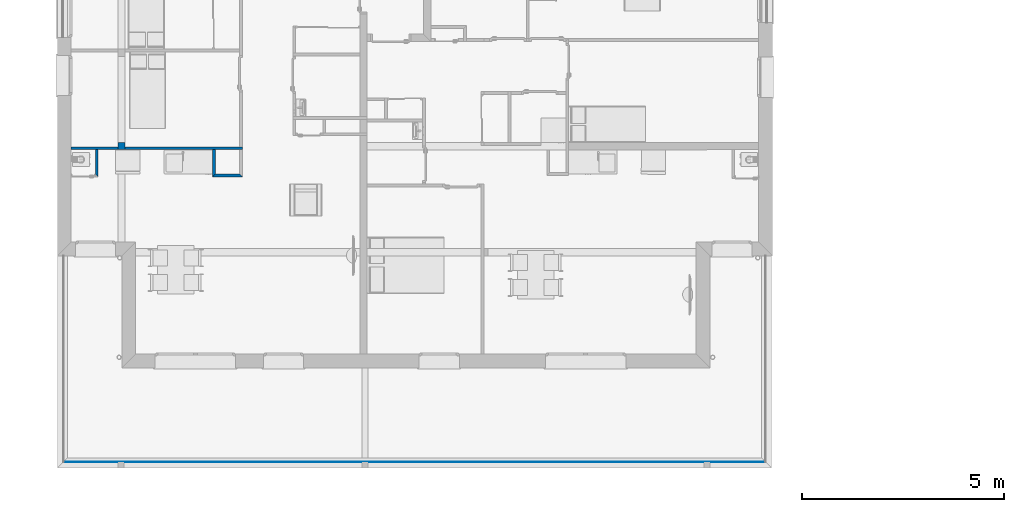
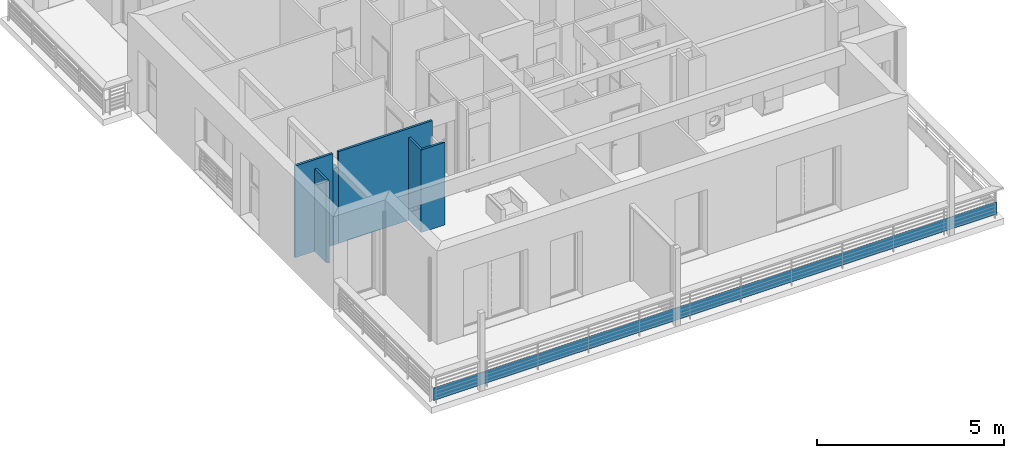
# One storey, part 4 of 165: 7 walls.
"""IFC2X3 building model written with IfcOpenShell, lengths in millimetres."""

from ifc_helpers import new_model, entity, si_unit, converted_unit, derived_unit, money_unit, direction, frame, origin_with_axes, place, context, subcontext, project, spatial, polyline, outline, extrude, material, layer, layer_set, layer_usage, type_object, element, save


model = new_model("IFC2X3")

# Units and contexts
model_context = context("Model", 3, precision=0.01, world=origin_with_axes(), true_north=direction((0.0, 1.0)))
body_context = subcontext(model_context, "Body", "Model", "MODEL_VIEW")
ifc_project = project(units=[si_unit("LENGTHUNIT", "METRE", prefix="MILLI"), si_unit("AREAUNIT", "SQUARE_METRE"), si_unit("VOLUMEUNIT", "CUBIC_METRE"), converted_unit("PLANEANGLEUNIT", "DEGREE", entity("IfcPlaneAngleMeasure", 0.0174532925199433), si_unit("PLANEANGLEUNIT", "RADIAN"), dimensions=[0, 0, 0, 0, 0, 0, 0]), money_unit("USD"), converted_unit("TIMEUNIT", "Year", entity("IfcTimeMeasure", 31557600.0), si_unit("TIMEUNIT", "SECOND"), dimensions=[0, 0, 1, 0, 0, 0, 0]), si_unit("MASSUNIT", "GRAM", prefix="KILO"), si_unit("THERMODYNAMICTEMPERATUREUNIT", "DEGREE_CELSIUS"), si_unit("LUMINOUSINTENSITYUNIT", "LUMEN"), si_unit("ENERGYUNIT", "JOULE", prefix="MEGA"), derived_unit("THERMALCONDUCTANCEUNIT", [(si_unit("POWERUNIT", "WATT"), 1), (si_unit("LENGTHUNIT", "METRE"), -1), (si_unit("THERMODYNAMICTEMPERATUREUNIT", "KELVIN"), -1)]), derived_unit("SPECIFICHEATCAPACITYUNIT", [(si_unit("ENERGYUNIT", "JOULE"), 1), (si_unit("MASSUNIT", "GRAM", prefix="KILO"), -1), (si_unit("THERMODYNAMICTEMPERATUREUNIT", "KELVIN"), -1)]), derived_unit("MASSDENSITYUNIT", [(si_unit("MASSUNIT", "GRAM", prefix="KILO"), 1), (si_unit("VOLUMEUNIT", "CUBIC_METRE"), -1)])], contexts=[model_context])

# Site, building, storey
site_placement = place(None, origin_with_axes())
site = spatial("IfcSite", under=ifc_project, at=site_placement, Name="Site", CompositionType="ELEMENT")
building_placement = place(site_placement, origin_with_axes())
building = spatial("IfcBuilding", under=site, at=building_placement, Name="Bâtiment", CompositionType="ELEMENT")
storey_placement = place(building_placement, frame((0.0, 0.0, 8500.0), z_axis=(0.0, 0.0, 1.0), x_axis=(1.0, 0.0, 0.0)))
storey = spatial("IfcBuildingStorey", under=building, at=storey_placement, Name="Etage 2", CompositionType="ELEMENT", Elevation=8500.0)

# Walls
ifc_material_1 = material(Name="Hachure solide 268963992")
ifc_layer_1 = layer(ifc_material_1, 70.0, ventilated="UNKNOWN")
ifc_layer_set_1 = layer_set([ifc_layer_1], Name="Cloison 70 0826278243")
ifc_layer_usage_1 = layer_usage(ifc_layer_set_1, "AXIS2", "POSITIVE", -70.0)
wall_type_1 = type_object("IfcWallType", Name="Cloison 70 0826278243 70", PredefinedType="NOTDEFINED")
wall_1_placement = place(storey_placement, frame((2220481.941023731, -653082.9598893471, 0.0), z_axis=(0.0, 0.0, 1.0), x_axis=(-0.0005802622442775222, 0.9999998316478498, 0.0)))
element("IfcWallStandardCase", 1, at=wall_1_placement, inside=storey, type_object=wall_type_1, material=ifc_layer_usage_1, Name="Mur-149", context=body_context, shape_type="SweptSolid", body=[
    extrude(outline(polyline([(69.95939342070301, -70.00000000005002), (670.237321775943, -70.00000000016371), (670.2779401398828, -1.13686837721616e-10), (0.0, 0.0), (69.95939342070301, -70.00000000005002)])), origin_with_axes(), (0.0, 0.0, 1.0), 2700.0),
])
ifc_layer_usage_2 = layer_usage(ifc_layer_set_1, "AXIS2", "POSITIVE", -70.0)
wall_2_placement = place(storey_placement, frame((2221152.351132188, -653082.9598893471, 0.0), z_axis=(0.0, 0.0, 1.0), x_axis=(-1.0, 0.0, 0.0)))
element("IfcWallStandardCase", 2, at=wall_2_placement, inside=storey, type_object=wall_type_1, material=ifc_layer_usage_2, Name="Mur-149", context=body_context, shape_type="SweptSolid", body=[
    extrude(outline(polyline([(-2.751221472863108e-07, -69.99999999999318), (600.4507150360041, -69.99999999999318), (670.4101084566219, 0.0), (-70.00000000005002, 0.0), (-2.751221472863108e-07, -69.99999999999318)])), origin_with_axes(), (0.0, 0.0, 1.0), 2700.0),
])
ifc_layer_usage_3 = layer_usage(ifc_layer_set_1, "AXIS2", "NEGATIVE", 70.0)
wall_3_placement = place(storey_placement, frame((2217644.64344762, -653082.9598893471, 0.0), z_axis=(0.0, 0.0, 1.0), x_axis=(0.0, 1.0, 0.0)))
element("IfcWallStandardCase", 3, at=wall_3_placement, inside=storey, type_object=wall_type_1, material=ifc_layer_usage_3, Name="Mur-149", context=body_context, shape_type="SweptSolid", body=[
    extrude(outline(polyline([(0.0, 0.0), (670.2778272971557, 0.0), (670.2778272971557, 70.00000000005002), (69.99999999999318, 70.00000000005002), (0.0, 0.0)])), origin_with_axes(), (0.0, 0.0, 1.0), 2700.0),
])
ifc_layer_usage_4 = layer_usage(ifc_layer_set_1, "AXIS2", "POSITIVE", -70.0)
wall_4_placement = place(storey_placement, frame((2221222.351167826, -652412.6820620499, 0.0), z_axis=(0.0, 0.0, 1.0), x_axis=(-1.0, 0.0, 0.0)))
element("IfcWallStandardCase", 4, at=wall_4_placement, inside=storey, type_object=wall_type_1, material=ifc_layer_usage_4, Name="Mur-149", context=body_context, shape_type="SweptSolid", body=[
    extrude(outline(polyline([(0.0, -69.99999999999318), (2908.122045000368, -69.99999999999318), (2908.122045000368, 0.0), (0.0, 0.0), (0.0, -69.99999999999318)])), origin_with_axes(), (0.0, 0.0, 1.0), 3000.0),
])
ifc_layer_usage_5 = layer_usage(ifc_layer_set_1, "AXIS2", "POSITIVE", -70.0)
wall_5_placement = place(storey_placement, frame((2218138.165121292, -652412.6820620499, 0.0), z_axis=(0.0, 0.0, 1.0), x_axis=(-1.0, 0.0, 0.0)))
element("IfcWallStandardCase", 5, at=wall_5_placement, inside=storey, type_object=wall_type_1, material=ifc_layer_usage_5, Name="Mur-149", context=body_context, shape_type="SweptSolid", body=[
    extrude(outline(polyline([(0.0, -69.99999999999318), (1163.931781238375, -69.99999999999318), (1163.93178127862, 0.0), (0.0, 0.0), (0.0, -69.99999999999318)])), origin_with_axes(), (0.0, 0.0, 1.0), 3000.0),
])
ifc_material_2 = material(Name="MANQUANT")
ifc_layer_2 = layer(ifc_material_2, 20.0, ventilated="UNKNOWN")
ifc_layer_set_2 = layer_set([ifc_layer_2], Name="MANQUANT 20")
ifc_layer_usage_6 = layer_usage(ifc_layer_set_2, "AXIS2", "NEGATIVE", 20.0)
wall_type_2 = type_object("IfcWallType", Name="MANQUANT 20", PredefinedType="NOTDEFINED")
wall_6_placement = place(storey_placement, frame((2216775.087519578, -660162.0180163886, 99.99999999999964), z_axis=(0.0, 0.0, 1.0), x_axis=(1.0, 0.0, 0.0)))
element("IfcWallStandardCase", 6, at=wall_6_placement, inside=storey, type_object=wall_type_2, material=ifc_layer_usage_6, Name="Mur-180", context=body_context, shape_type="SweptSolid", body=[
    extrude(outline(polyline([(0.0, 0.0), (17419.65010717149, 0.0), (17399.65010717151, 19.99999999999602), (19.99999999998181, 19.99999999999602), (0.0, 0.0)])), origin_with_axes(), (0.0, 0.0, 1.0), 400.0),
])
ifc_material_3 = material(Name="Parpaing 312445824")
ifc_layer_3 = layer(ifc_material_3, 180.0, ventilated="UNKNOWN")
ifc_layer_set_3 = layer_set([ifc_layer_3], Name="Beton  18 0836643197")
ifc_layer_usage_7 = layer_usage(ifc_layer_set_3, "AXIS2", "NEGATIVE", 0.0)
wall_type_3 = type_object("IfcWallType", Name="Beton  18 0836643197 180", PredefinedType="NOTDEFINED")
wall_7_placement = place(storey_placement, frame((2218314.229122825, -652412.6820620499, 0.0), z_axis=(0.0, 0.0, 1.0), x_axis=(-1.0, 0.0, 0.0)))
element("IfcWallStandardCase", 7, at=wall_7_placement, inside=storey, type_object=wall_type_3, material=ifc_layer_usage_7, Name="Mur-143", context=body_context, shape_type="SweptSolid", body=[
    extrude(outline(polyline([(0.0, -180.0000000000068), (176.0640015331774, -180.0000000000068), (176.0640015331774, 0.0), (0.0, 0.0), (0.0, -180.0000000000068)])), origin_with_axes(), (0.0, 0.0, 1.0), 2500.0),
])

save(model, "model.ifc")
